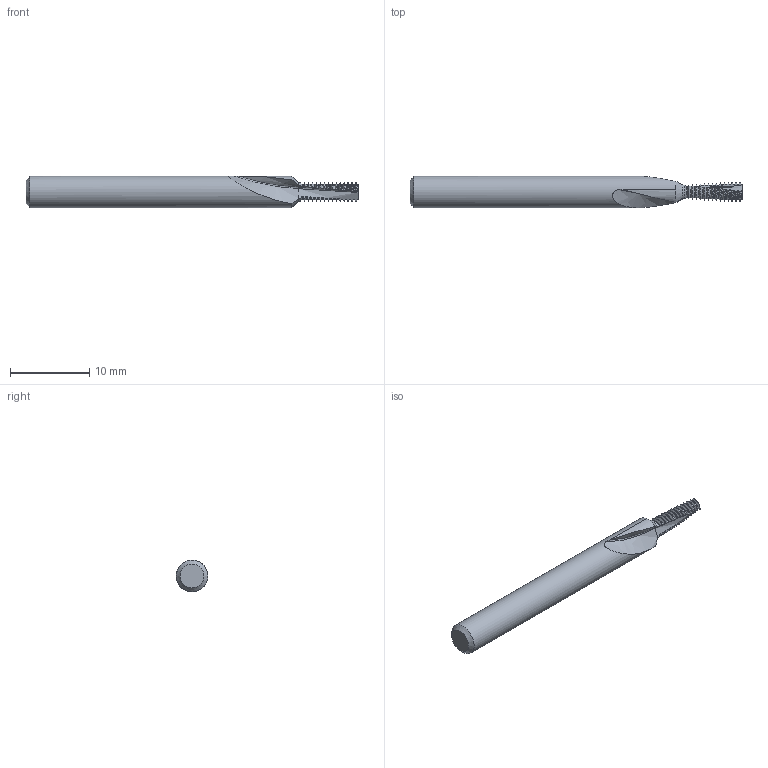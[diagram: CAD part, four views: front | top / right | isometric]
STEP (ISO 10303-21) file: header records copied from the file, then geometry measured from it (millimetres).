
FILE_DESCRIPTION(/* description */ (''),/* implementation_level */ '2;1');
FILE_NAME(/* name */ '168192-00031562-STEP',/* time_stamp */ '2024-02-12T07:07:04+01:00',/* author */ (''),/* organization */ (''),/* preprocessor_version */ 'ST-DEVELOPER v16.5',/* originating_system */ 'HiCAD 2017 2201.0 Build 268',/* authorisation */ '');
FILE_SCHEMA (('AUTOMOTIVE_DESIGN { 1 0 10303 214 1 1 1 1 }'));
Length unit declared in the file: millimetre
Products named in the file (2): Root; ROTATIONSTEIL_0
Assembly tree (1 placements, depth 2):
  Root
    ROTATIONSTEIL_0
Bounding box: 42 x 4 x 4 mm (x, y, z)
Volume: 414.2 mm3; surface area: 509.8 mm2
Topology: 1 solids, 1 shells, 195 faces, 686 edges, 493 vertices
Faces by surface type: torus 86, cone 61, cylinder 34, bspline 12, plane 2
Full cylindrical faces by diameter (mm): 4 x1
Entity records: 22886 total; most frequent: CARTESIAN_POINT 11358, PRESENTATION_STYLE_ASSIGNMENT 1359, COLOUR_RGB 1359, DRAUGHTING_PRE_DEFINED_CURVE_FONT 1358, CURVE_STYLE 1358, OVER_RIDING_STYLED_ITEM 1358, ORIENTED_EDGE 1358, DIRECTION 796
